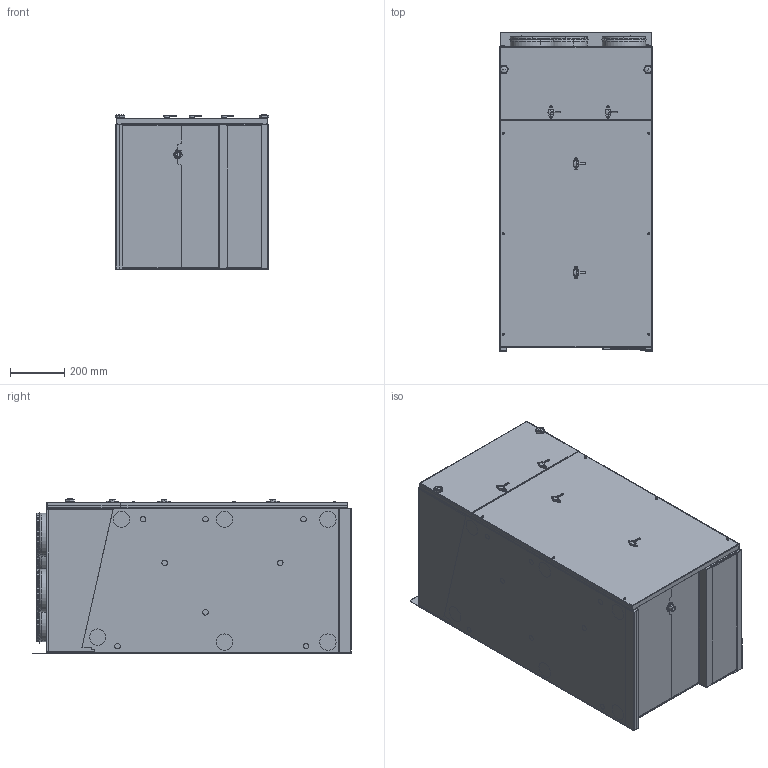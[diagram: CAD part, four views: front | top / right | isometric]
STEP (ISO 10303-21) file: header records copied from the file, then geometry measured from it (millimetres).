
FILE_DESCRIPTION (( 'STEP AP214' ), '1' );
FILE_NAME ('CT252-302_Højre_CTS602.STEP', '2018-03-12T09:52:00', ( '' ), ( '' ), 'SwSTEP 2.0', 'SolidWorks 2017', '' );
FILE_SCHEMA (( 'AUTOMOTIVE_DESIGN' ));
Length unit declared in the file: millimetre
Products named in the file (87): Luftmålestuds_type_DUMBO; CT252-302_H_Sideplade_Hoejre; CT252-302_Bagplade; 11190-15-040A-03-D CT250; CT252-302_Højre_CTS602; CT252-302_ophaeng; CT252-302_Top_Daekplade_CTS602_projekt; Ø160_dækplade_for_tegninger; Fingerskrue_sekskant_M6x40; PGxx_møtrik; 11191-15-040A-04-C CT250; 160mm_rørstuds; Nilan_Pladeskrue_4,2x9,5mm_torx; USB-A; CT252-302_Top_Daekplade_CTS602_projekt_CTS 602 projektmodel; 11191-15-040A-04-C CT250_15-040A-04-B; Pladeskrue PH 4,2x38 spids Torx Panhoved ISO 14585; RJ-45_CAT5 SOCKET; CT252-302_H_Sideplade_Venstre; PG11_gummimembran; Comfort_CT250_Standard; Luftmålestuds_type_DUMBO_Kort model; CT252-302_H_Toplaag; PGxx_møtrik_PG21_m›trik; CT252-302_H_Bundbeklaedning; 2734_108_031_000; 11189-15-040A-02-D CT250; Popnitte; CT252-302_Forplade_Bundlaag; 20mm_Lang_kondensafloeb; Ø160_dækplade_for_tegninger_Nr. 1; CT252-302_Forplade_Toplaag; Power Entry Module_Power Entry Module; Power Entry Module; 11188-15-040A-01-C CT250; Popnitte_Popnitte 3,2 x 6; Skive_for_Bolt_M6x40_med_bøjle; Ø160_dækplade_for_tegninger_Nr. 2; Ø160_dækplade_for_tegninger_Nr. 4; Ø160_dækplade_for_tegninger_Nr. 3
Assembly tree (55 placements, depth 3):
  Luftmålestuds_type_DUMBO
  CT252-302_Bagplade
  11190-15-040A-03-D CT250
  CT252-302_Højre_CTS602
    160mm_rørstuds  x4
    20mm_Lang_kondensafloeb
    PGxx_møtrik_PG21_m›trik
    Luftmålestuds_type_DUMBO_Kort model  x4
    2734_108_031_000
    Power Entry Module_Power Entry Module
    USB-A
    PG11_gummimembran
    RJ-45_CAT5 SOCKET
    CT252-302_Top_Daekplade_CTS602_projekt_CTS 602 projektmodel
    CT252-302_ophaeng
    CT252-302_Bagplade
    CT252-302_Forplade_Toplaag
    CT252-302_Forplade_Bundlaag
    CT252-302_H_Toplaag
    CT252-302_H_Sideplade_Hoejre
    CT252-302_H_Sideplade_Venstre
    CT252-302_H_Bundbeklaedning
    Fingerskrue_sekskant_M6x40  x2
    Skive_for_Bolt_M6x40_med_bøjle  x2
    Popnitte_Popnitte 3,2 x 6  x4
    Nilan_Pladeskrue_4,2x9,5mm_torx  x7
    Pladeskrue PH 4,2x38 spids Torx Panhoved ISO 14585  x6
    Comfort_CT250_Standard
      11188-15-040A-01-C CT250
      11189-15-040A-02-D CT250
      11190-15-040A-03-D CT250
      11191-15-040A-04-C CT250_15-040A-04-B
    Ø160_dækplade_for_tegninger_Nr. 4
    Ø160_dækplade_for_tegninger_Nr. 3
    Ø160_dækplade_for_tegninger_Nr. 2
    Ø160_dækplade_for_tegninger_Nr. 1
  CT252-302_Top_Daekplade_CTS602_projekt
Bounding box: 563.66 x 1169.35 x 569.75 mm (x, y, z)
Volume: 90614067.5 mm3; surface area: 13394736.8 mm2
Topology: 53 solids, 57 shells, 5793 faces, 14940 edges, 9450 vertices
Faces by surface type: plane 2672, cylinder 1751, torus 557, bspline 480, cone 265, sphere 68
Entity records: 198634 total; most frequent: CARTESIAN_POINT 69801, ORIENTED_EDGE 24866, DIRECTION 22298, EDGE_CURVE 12433, VERTEX_POINT 7984, AXIS2_PLACEMENT_3D 7474, VECTOR 7350, LINE 7350
